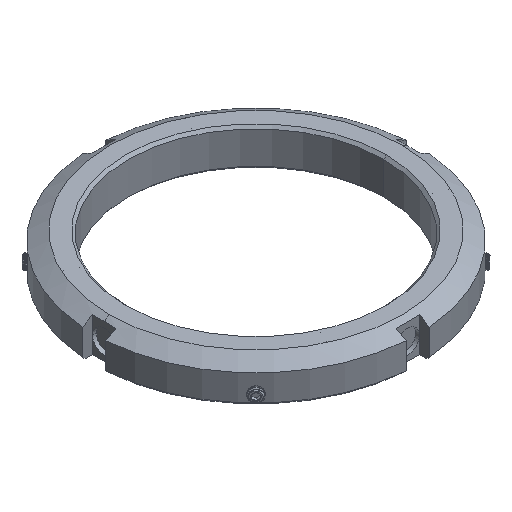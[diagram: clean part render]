
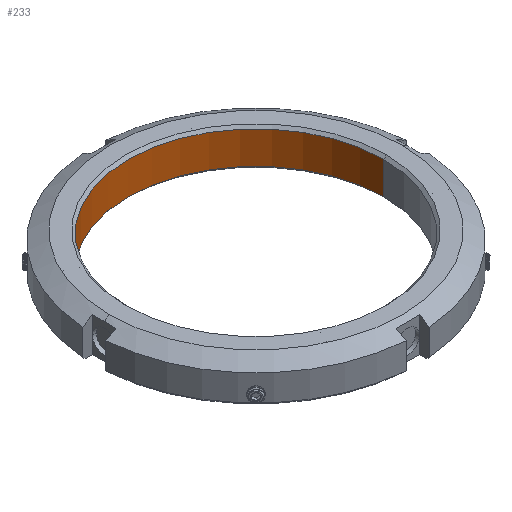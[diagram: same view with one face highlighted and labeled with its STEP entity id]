
A CAD part, isometric view. The second image highlights one B-rep face of the part: STEP entity #233.
In plain terms, the highlighted cylindrical face has radius 98.476 mm (diameter 196.952 mm), a partial arc.
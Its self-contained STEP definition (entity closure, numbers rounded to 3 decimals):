
#233 = ADVANCED_FACE ( 'NONE', ( #6790 ), #6782, .F. ) ;
#777 = DIRECTION ( 'NONE',  ( 1., 0., 0. ) ) ;
#786 = DIRECTION ( 'NONE',  ( 0., 0., -1. ) ) ;
#792 = DIRECTION ( 'NONE',  ( 1., 0., 0. ) ) ;
#793 = DIRECTION ( 'NONE',  ( 0., 0., 1. ) ) ;
#816 = CARTESIAN_POINT ( 'NONE',  ( 196.502, 15.173, 2. ) ) ;
#829 = CARTESIAN_POINT ( 'NONE',  ( 196.502, 15.173, 27. ) ) ;
#872 = ORIENTED_EDGE ( 'NONE', *, *, #8220, .T. ) ;
#878 = ORIENTED_EDGE ( 'NONE', *, *, #8219, .T. ) ;
#882 = ORIENTED_EDGE ( 'NONE', *, *, #8099, .F. ) ;
#925 = ORIENTED_EDGE ( 'NONE', *, *, #8109, .T. ) ;
#1414 = CARTESIAN_POINT ( 'NONE',  ( 294.978, 15.173, 29. ) ) ;
#1419 = CARTESIAN_POINT ( 'NONE',  ( 98.027, 15.173, 29. ) ) ;
#1451 = DIRECTION ( 'NONE',  ( 0., 0., -1. ) ) ;
#1533 = DIRECTION ( 'NONE',  ( 0., 0., -1. ) ) ;
#2341 = CARTESIAN_POINT ( 'NONE',  ( 294.978, 15.173, 2. ) ) ;
#2342 = CARTESIAN_POINT ( 'NONE',  ( 294.978, 15.173, 27. ) ) ;
#2343 = CARTESIAN_POINT ( 'NONE',  ( 98.027, 15.173, 2. ) ) ;
#2364 = CARTESIAN_POINT ( 'NONE',  ( 98.027, 15.173, 27. ) ) ;
#4633 = VERTEX_POINT ( 'NONE', #2364 ) ;
#4652 = VERTEX_POINT ( 'NONE', #2343 ) ;
#4653 = VERTEX_POINT ( 'NONE', #2342 ) ;
#4654 = VERTEX_POINT ( 'NONE', #2341 ) ;
#4970 = VECTOR ( 'NONE', #1451, 1000. ) ;
#4980 = LINE ( 'NONE', #1414, #4970 ) ;
#4984 = LINE ( 'NONE', #1419, #4997 ) ;
#4997 = VECTOR ( 'NONE', #1533, 1000. ) ;
#5153 = CIRCLE ( 'NONE', #8547, 98.476 ) ;
#5155 = CIRCLE ( 'NONE', #8546, 98.476 ) ;
#5773 = AXIS2_PLACEMENT_3D ( 'NONE', #8806, #8807, #8808 ) ;
#6552 = EDGE_LOOP ( 'NONE', ( #882, #878, #925, #872 ) ) ;
#6782 = CYLINDRICAL_SURFACE ( 'NONE', #5773, 98.476 ) ;
#6790 = FACE_OUTER_BOUND ( 'NONE', #6552, .T. ) ;
#8099 = EDGE_CURVE ( 'NONE', #4653, #4654, #4980, .T. ) ;
#8109 = EDGE_CURVE ( 'NONE', #4633, #4652, #4984, .T. ) ;
#8219 = EDGE_CURVE ( 'NONE', #4653, #4633, #5153, .T. ) ;
#8220 = EDGE_CURVE ( 'NONE', #4652, #4654, #5155, .T. ) ;
#8546 = AXIS2_PLACEMENT_3D ( 'NONE', #816, #786, #777 ) ;
#8547 = AXIS2_PLACEMENT_3D ( 'NONE', #829, #793, #792 ) ;
#8806 = CARTESIAN_POINT ( 'NONE',  ( 196.502, 15.173, 29. ) ) ;
#8807 = DIRECTION ( 'NONE',  ( 0., 0., -1. ) ) ;
#8808 = DIRECTION ( 'NONE',  ( -1., 0., 0. ) ) ;
